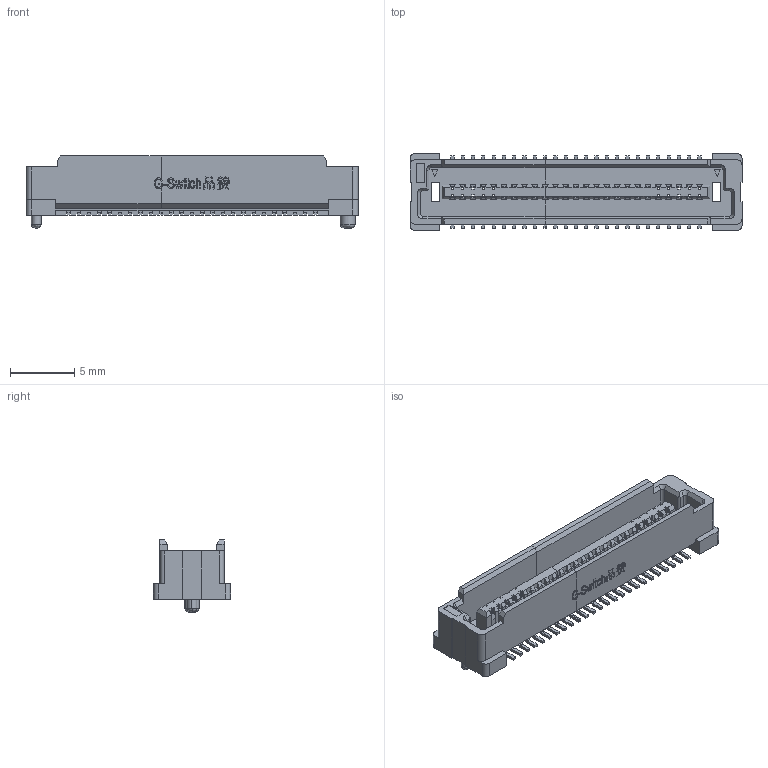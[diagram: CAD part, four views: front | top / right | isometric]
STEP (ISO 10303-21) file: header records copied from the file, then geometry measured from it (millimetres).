
FILE_DESCRIPTION (( 'STEP AP203' ), '1' );
FILE_NAME ('GT-B0805MSV47-50S1101.STEP', '2026-01-20T10:36:27', ( '' ), ( '' ), 'SwSTEP 2.0', 'SolidWorks 2020', '' );
FILE_SCHEMA (( 'CONFIG_CONTROL_DESIGN' ));
Products named in the file (1): GT-B0805MSV47-50S1101
Bounding box: 25.8 x 6 x 5.6 mm (x, y, z)
Volume: 281.4 mm3; surface area: 1182.5 mm2
Topology: 2 solids, 30 shells, 4344 faces, 12718 edges, 8286 vertices
Faces by surface type: plane 3227, cylinder 832, torus 200, bspline 79, cone 6
Entity records: 147355 total; most frequent: CARTESIAN_POINT 30120, ORIENTED_EDGE 25436, DIRECTION 23180, EDGE_CURVE 12718, LINE 10280, VECTOR 10280, VERTEX_POINT 8286, AXIS2_PLACEMENT_3D 6450
